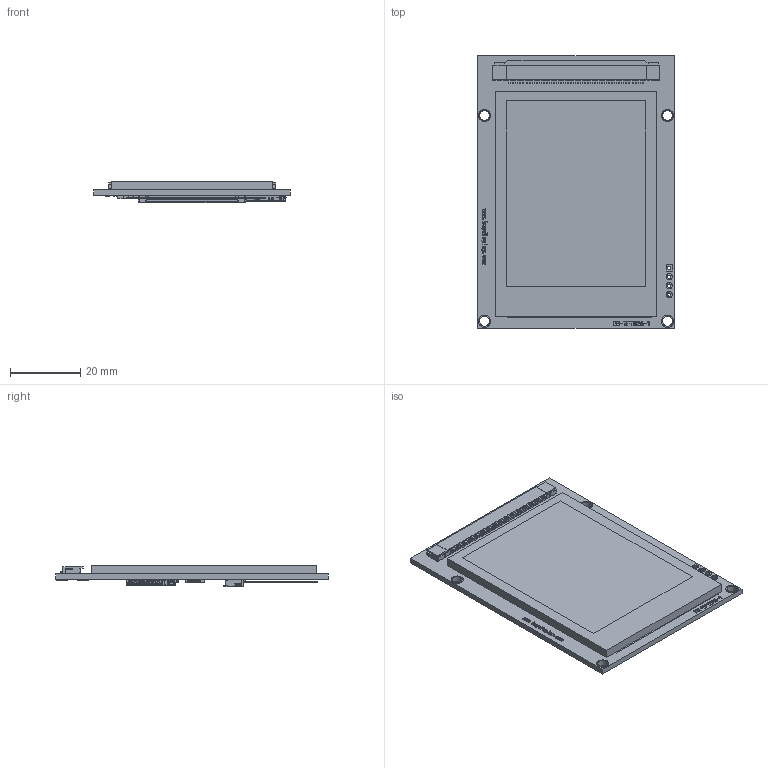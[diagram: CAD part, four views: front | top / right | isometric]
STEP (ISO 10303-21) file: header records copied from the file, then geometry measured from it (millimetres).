
FILE_DESCRIPTION(('HOOPS Exchange Step'),'2;1');
FILE_NAME('\\Server-1\e\公共文件夹\7.产品资料库\彩色-TFT\2.6寸\ER-TFTM026-1\3D\ER-TFTM026-1_3D.step','2021-01-28T08:53:34+08:00',('Administrator'),('Unknown organisation'),'HOOPS Exchange 2018.2','glovius.exe','Unknown authorisation');
FILE_SCHEMA( ('AUTOMOTIVE_DESIGN { 1 0 10303 214 1 1 1 1 }') );
Length unit declared in the file: millimetre
Products named in the file (8): 零件4-1; SD卡座-1; 连接器_50-Pin - 副本-1; 连接器_50-Pin-1; FLASH-1; 零件8-1; Default; ER-TFTM026-1
Assembly tree (8 placements, depth 3):
  ER-TFTM026-1
    Default
      零件4-1
      SD卡座-1
      连接器_50-Pin - 副本-1
      连接器_50-Pin-1
      FLASH-1  x2
      零件8-1
Bounding box: 56 x 77.5 x 6.23 mm (x, y, z)
Volume: 14971.6 mm3; surface area: 22018 mm2
Topology: 229 solids, 229 shells, 7129 faces, 17904 edges, 11190 vertices
Faces by surface type: bspline 7129
Entity records: 679856 total; most frequent: CARTESIAN_POINT 453214, B_SPLINE_CURVE_WITH_KNOTS 48345, DEFINITIONAL_REPRESENTATION 34540, PCURVE 34540, ORIENTED_EDGE 34540, INTERSECTION_CURVE 17270, EDGE_CURVE 17270, VERTEX_POINT 10964
